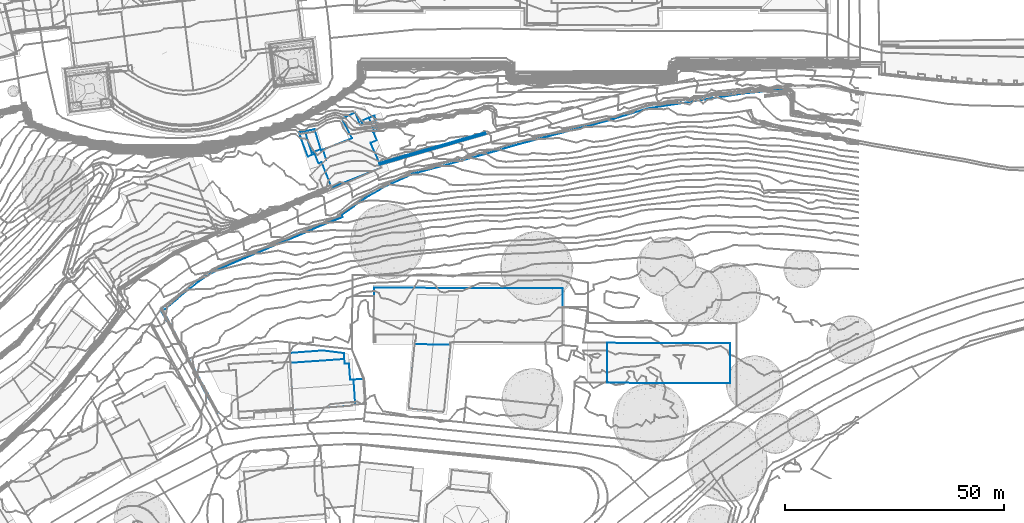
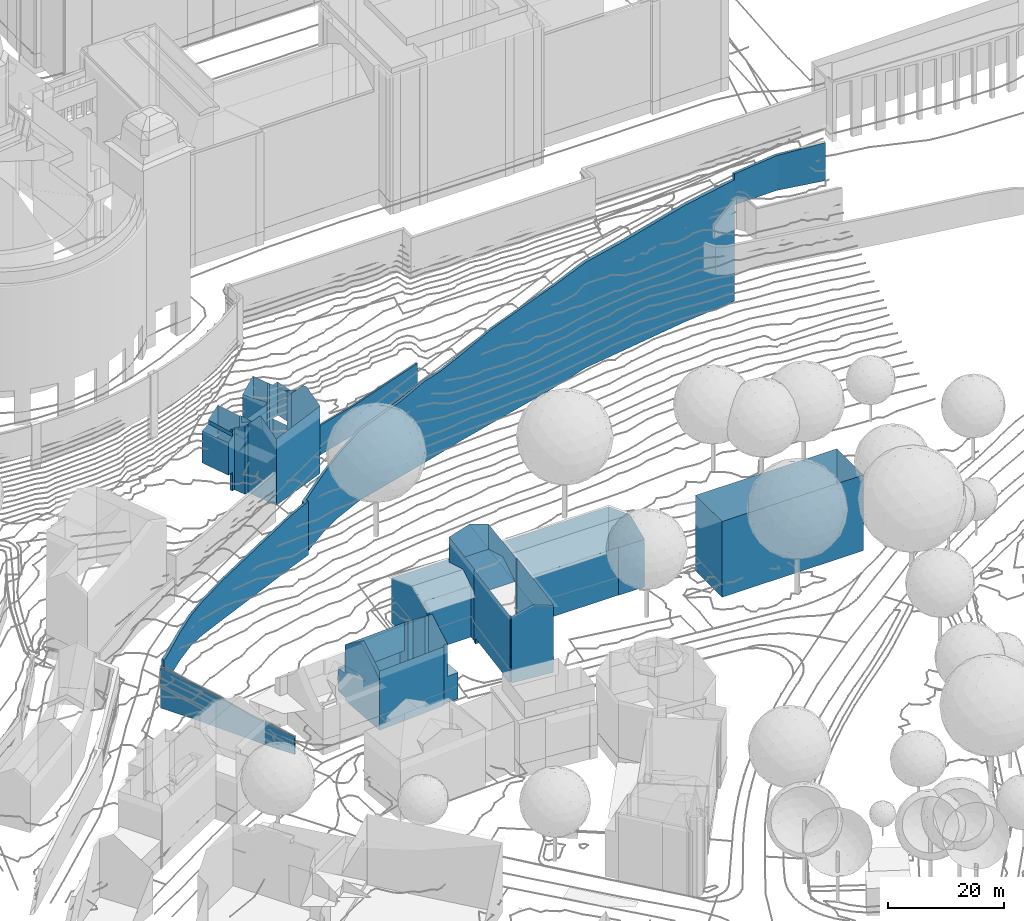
# Not in any storey, part 54 of 477: 6 walls.
"""IFC4 building model written with IfcOpenShell, lengths in metres."""

from ifc_helpers import new_model, si_unit, frame, origin_with_axes, place, context, subcontext, project, spatial, polygons, element, save


model = new_model("IFC4")

# Units and contexts
model_context = context("Model", 3, precision=1e-05, world=origin_with_axes())
body_context = subcontext(model_context, "Body", "Model", "MODEL_VIEW")
ifc_project = project(units=[si_unit("AREAUNIT", "SQUARE_METRE"), si_unit("LENGTHUNIT", "METRE")], contexts=[model_context])

# Sites, building
site_1_placement = place(None, origin_with_axes())
site_1 = spatial("IfcSite", under=ifc_project, at=site_1_placement, Name="Topoexport Site")
site_2_placement = place(site_1_placement, origin_with_axes())
site_2 = spatial("IfcSite", under=site_1, at=site_2_placement, Name="TPX_BUILDINGS")
building_1_placement = place(site_2_placement, frame((211.8297320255, 101.9383160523, 526.7541), z_axis=(0.0, 0.0, 1.0), x_axis=(1.0, 0.0, 0.0)))
building_1 = spatial("IfcBuilding", under=site_2, at=building_1_placement, Name="Building 18", CompositionType="ELEMENT")

# Walls
wall_1_placement = place(None, frame((211.8297320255, 101.9383160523, 526.7541), z_axis=(0.0, 0.0, 1.0), x_axis=(1.0, 0.0, 0.0)))
element("IfcWall", 1, at=wall_1_placement, inside=building_1, Name="Wall 18", context=body_context, shape_type="Tessellation", body=[
    polygons([(391.2110000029, 242.7285000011, -10.155), (376.1530000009, 238.4004000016, -4.0406), (391.2110000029, 242.7285000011, -3.1507), (391.1020000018, 243.1074000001, -10.155), (391.1020000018, 243.1074000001, -3.1507), (376.0439999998, 238.7793000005, -10.155), (376.0439999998, 238.7793000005, -4.0406), (376.1530000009, 238.4004000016, -10.155), (367.0130000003, 235.7421999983, -4.0406), (366.9020000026, 236.121100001, -10.155), (366.9020000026, 236.121100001, -4.0406), (367.0130000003, 235.7421999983, -10.155)], [[[3, 2, 1]], [[5, 3, 4]], [[7, 4, 6]], [[2, 9, 8]], [[11, 7, 10]], [[9, 11, 12]], [[2, 8, 1]], [[3, 1, 4]], [[5, 4, 7]], [[9, 12, 8]], [[7, 6, 10]], [[11, 10, 12]]]),
])
wall_2_placement = place(None, frame((211.8297320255, 101.9383160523, 526.7541), z_axis=(0.0, 0.0, 1.0), x_axis=(1.0, 0.0, 0.0)))
element("IfcWall", 2, at=wall_2_placement, inside=building_1, Name="Wall 22", context=body_context, shape_type="Tessellation", body=[
    polygons([(330.8370000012, 212.0936999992, -20.483), (329.5329999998, 211.4404000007, -13.6877), (330.8370000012, 212.0936999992, -13.3767), (348.3960000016, 219.5342000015, -20.483), (336.2930000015, 214.442400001, -12.1528), (348.3960000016, 219.5342000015, -10.34), (336.2930000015, 214.442400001, -20.483), (354.0190000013, 221.9697000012, -20.483), (354.0190000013, 221.9697000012, -9.5821), (353.4940000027, 222.2256000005, -20.483), (357.693, 223.8564000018, -20.483), (353.4940000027, 222.2256000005, -9.6301), (358.6170000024, 223.8066000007, -20.483), (358.6170000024, 223.8066000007, -9.1681), (357.5240000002, 224.2617000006, -20.483), (364.1030000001, 228.8671999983, -20.483), (357.5240000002, 224.2617000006, -9.1681), (364.5199999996, 228.5967000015, -20.483), (358.4250000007, 224.3143999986, -9.1681), (364.5199999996, 228.5967000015, -8.2052), (357.693, 223.8564000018, -9.1681), (358.4250000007, 224.3143999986, -20.483), (368.4070000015, 230.8134999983, -20.483), (368.4070000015, 230.8134999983, -7.3163), (368.0720000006, 231.1268999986, -20.483), (364.1030000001, 228.8671999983, -8.2442), (374.5850000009, 233.6182000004, -20.483), (374.5850000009, 233.6182000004, -5.7495), (374.4420000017, 234.0780999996, -20.483), (368.0720000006, 231.1268999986, -7.3483), (384.068, 236.1963, -20.4831), (384.068, 236.1963, -4.6586), (405.756000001, 242.2626999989, -20.4829), (398.893000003, 240.4354999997, -2.3187), (405.756000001, 242.2626999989, -0.6428), (393.450000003, 239.3104999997, -20.4831), (398.756000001, 240.9004000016, -20.4829), (393.450000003, 239.3104999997, -3.2437), (398.893000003, 240.4354999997, -20.4829), (393.5760000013, 238.8729999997, -3.2437), (436.8360000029, 249.9111000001, -20.483), (428.0439999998, 248.5469000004, 1.7179), (436.8360000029, 249.9111000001, 2.4808), (419.3350000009, 245.8231999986, -20.4829), (419.3350000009, 245.8231999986, 0.96), (329.2880000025, 211.7743999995, -20.483), (327.0160000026, 210.5722999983, -14.1346), (327.0160000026, 210.5722999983, -20.483), (329.2880000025, 211.7743999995, -13.6997), (330.8900000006, 212.6229999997, -20.483), (330.8900000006, 212.6229999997, -13.3187), (336.1300000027, 214.8555000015, -20.483), (336.1300000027, 214.8555000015, -12.1508), (348.2180000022, 219.9853000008, -10.339), (348.2180000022, 219.9853000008, -20.483), (405.6400000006, 242.7030999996, -20.4829), (398.756000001, 240.9004000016, -2.3197), (405.6400000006, 242.7030999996, -0.6428), (419.2030000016, 246.2578000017, -20.4829), (419.2030000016, 246.2578000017, 0.96), (383.9270000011, 236.6893999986, -20.4831), (383.9270000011, 236.6893999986, -4.6596), (374.4420000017, 234.0780999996, -5.7465), (389.574000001, 238.2432000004, -20.4831), (389.574000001, 238.2430999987, -3.4067), (393.5760000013, 238.8729999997, -20.4831), (389.7030000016, 237.7754000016, -3.4067), (389.7030000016, 237.7754000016, -20.4831), (428.0439999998, 248.5469000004, -20.483), (420.2829999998, 246.1229999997, 0.96), (420.2829999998, 246.1229999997, -20.4829), (420.126000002, 246.566399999, -20.4829), (420.126000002, 246.566399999, 0.96), (427.9169999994, 249.1737999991, -20.483), (427.9169999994, 249.1737999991, 1.7199), (468.6530000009, 253.8467000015, -0.3199), (477.4600000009, 251.6347999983, -0.3199), (468.6530000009, 253.8467000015, 7.0034), (468.6080000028, 253.2734000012, 7.0034), (477.4600000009, 251.6347999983, 7.7103), (468.6080000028, 253.2734000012, -0.3199), (460.2239999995, 253.1543000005, 4.9256), (460.2239999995, 253.1543000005, 6.2075), (460.1730000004, 253.6708999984, 6.2035), (460.1730000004, 253.6708999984, 4.9256), (460.1730000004, 253.6708999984, -0.3199), (457.8430000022, 252.7675999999, 4.8446), (460.2239999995, 253.1543000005, -0.3199), (460.2239999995, 253.1543000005, -20.483), (457.8430000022, 252.7675999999, -20.483), (460.1730000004, 253.6680000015, -20.483), (449.8500000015, 251.9706999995, -20.483), (449.8500000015, 251.9706999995, 4.0297), (457.7770000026, 253.4296999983, -20.483), (449.7650000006, 252.6308999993, 4.0297), (449.7650000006, 252.6308000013, -20.483), (457.7770000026, 253.4296999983, 4.8446), (436.7320000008, 250.5683999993, -20.483), (436.7320000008, 250.5683999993, 2.4808), (323.0760000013, 192.1523000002, -23.7897), (323.0760000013, 192.1523000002, -20.4821), (322.7210000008, 192.8222999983, -18.6592), (323.4299999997, 191.4824000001, -18.9962), (323.5109999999, 191.3330000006, -20.688), (325.9310000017, 186.9092000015, -25.2756), (322.7210000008, 192.8222999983, -25.2756), (323.4299999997, 191.4824000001, -25.2756), (323.5109999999, 191.3330000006, -23.9967), (325.938000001, 186.8964999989, -20.1591), (320.0100000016, 197.3916000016, -25.2756), (316.9629999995, 202.6484000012, -25.2756), (320.0100000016, 197.3916000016, -17.8803), (327.3210000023, 210.2148000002, -20.483), (325.7039999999, 209.0243999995, -14.4046), (327.3210000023, 210.2148000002, -14.1246), (329.5329999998, 211.4404000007, -20.483), (325.7039999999, 209.0243999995, -20.483), (323.7280000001, 207.5370999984, -14.5966), (318.8420000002, 204.1103000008, -20.483), (323.4570000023, 207.9023000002, -20.483), (318.8420000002, 204.1103000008, -15.2205), (323.7280000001, 207.5370999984, -20.483), (319.1640000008, 203.6992000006, -15.2205), (317.5140000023, 202.3574000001, -16.7574), (317.2360000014, 202.8603000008, -16.6404), (317.5140000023, 202.3574000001, -15.2355), (317.6300000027, 202.4512000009, -20.483), (317.6300000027, 202.4512000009, -16.7524), (319.1640000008, 203.6992000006, -20.483), (327.4610000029, 183.2256000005, -25.2756), (325.6339999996, 186.7373000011, -25.2756), (327.4610000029, 183.2256000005, -20.757), (329.9570000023, 179.0137000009, -25.2756), (329.9570000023, 179.0137000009, -21.669), (330.2019999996, 179.1581999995, -25.2756), (330.2019999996, 179.1581999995, -21.669), (330.1400000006, 179.2109000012, -25.2756), (330.1400000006, 179.2109000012, -21.656), (322.4910000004, 192.7012000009, -18.6592), (322.4910000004, 192.7012000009, -25.2756), (325.6339999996, 186.7373000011, -20.1591), (320.2380000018, 197.5185000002, -17.8803), (317.3619999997, 202.9580000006, -20.483), (317.3619999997, 202.9580000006, -25.2756), (320.2380000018, 197.5185000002, -25.2756), (316.9629999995, 202.6484000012, -16.6504), (317.2360000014, 202.8603000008, -15.2345), (325.4169999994, 209.3729999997, -20.483), (323.4570000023, 207.9023000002, -14.5956), (325.4169999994, 209.3729999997, -14.4056), (327.8320000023, 183.4316000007, -25.2756), (327.8320000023, 183.4316000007, -20.757)], [[[3, 2, 1]], [[6, 5, 4]], [[5, 3, 7]], [[9, 6, 8]], [[12, 11, 10]], [[14, 9, 13]], [[17, 16, 15]], [[20, 19, 18]], [[21, 17, 11]], [[19, 14, 22]], [[24, 20, 23]], [[26, 25, 16]], [[28, 24, 27]], [[30, 29, 25]], [[32, 28, 31]], [[35, 34, 33]], [[38, 37, 36]], [[34, 40, 39]], [[43, 42, 41]], [[45, 35, 44]], [[48, 47, 46]], [[46, 47, 49]], [[49, 51, 50]], [[49, 50, 46]], [[51, 53, 52]], [[52, 50, 51]], [[53, 54, 52]], [[54, 12, 55]], [[10, 55, 12]], [[54, 55, 52]], [[37, 57, 56]], [[56, 57, 58]], [[58, 60, 59]], [[58, 59, 56]], [[63, 62, 61]], [[61, 29, 63]], [[62, 64, 61]], [[65, 38, 36]], [[36, 64, 65]], [[65, 64, 62]], [[40, 67, 66]], [[66, 67, 68]], [[68, 32, 31]], [[32, 68, 67]], [[42, 70, 69]], [[69, 70, 71]], [[45, 44, 71]], [[45, 71, 70]], [[59, 60, 72]], [[72, 60, 73]], [[73, 75, 74]], [[73, 74, 72]], [[78, 77, 76]], [[80, 79, 77]], [[79, 82, 81]], [[83, 82, 79]], [[85, 84, 78]], [[85, 76, 86]], [[88, 82, 87]], [[88, 90, 89]], [[83, 84, 82]], [[86, 88, 91]], [[93, 43, 92]], [[87, 93, 90]], [[96, 95, 94]], [[94, 95, 97]], [[97, 85, 86]], [[91, 94, 86]], [[86, 94, 97]], [[74, 75, 98]], [[98, 75, 99]], [[99, 95, 96]], [[99, 96, 98]], [[102, 101, 100]], [[101, 102, 103]], [[103, 104, 101]], [[104, 103, 105]], [[101, 104, 100]], [[100, 106, 102]], [[100, 107, 106]], [[108, 107, 100]], [[105, 103, 109]], [[105, 107, 108]], [[112, 111, 110]], [[115, 114, 113]], [[2, 115, 116]], [[114, 118, 117]], [[121, 120, 119]], [[118, 123, 122]], [[126, 125, 124]], [[129, 128, 127]], [[128, 129, 123]], [[128, 126, 124]], [[126, 128, 123]], [[132, 131, 130]], [[134, 130, 133]], [[136, 134, 135]], [[138, 136, 137]], [[140, 131, 139]], [[139, 131, 141]], [[112, 110, 140]], [[112, 140, 139]], [[127, 128, 142]], [[144, 143, 127]], [[127, 145, 144]], [[142, 102, 145]], [[106, 145, 102]], [[142, 145, 127]], [[143, 111, 146]], [[143, 144, 111]], [[143, 146, 125]], [[119, 125, 147]], [[119, 143, 125]], [[119, 147, 121]], [[120, 149, 148]], [[148, 149, 150]], [[150, 47, 48]], [[150, 48, 148]], [[105, 109, 151]], [[151, 109, 152]], [[152, 137, 151]], [[137, 152, 138]], [[2, 116, 1]], [[5, 7, 4]], [[3, 1, 7]], [[6, 4, 8]], [[21, 11, 12]], [[9, 8, 13]], [[26, 16, 17]], [[19, 22, 18]], [[17, 15, 11]], [[14, 13, 22]], [[20, 18, 23]], [[30, 25, 26]], [[24, 23, 27]], [[63, 29, 30]], [[28, 27, 31]], [[34, 39, 33]], [[57, 37, 38]], [[40, 66, 39]], [[42, 69, 41]], [[35, 33, 44]], [[80, 77, 78]], [[79, 81, 77]], [[82, 88, 81]], [[78, 76, 85]], [[87, 90, 88]], [[84, 85, 82]], [[88, 89, 91]], [[43, 41, 92]], [[93, 92, 90]], [[104, 105, 108]], [[104, 108, 100]], [[146, 111, 112]], [[114, 117, 113]], [[115, 113, 116]], [[118, 122, 117]], [[149, 120, 121]], [[123, 129, 122]], [[147, 125, 126]], [[141, 131, 132]], [[132, 130, 134]], [[134, 133, 135]], [[136, 135, 137]]]),
])

# Building
building_2_placement = place(site_2_placement, frame((577.4937320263, 297.2000160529, 499.3887), z_axis=(0.0, 0.0, 1.0), x_axis=(1.0, 0.0, 0.0)))
building_2 = spatial("IfcBuilding", under=site_2, at=building_2_placement, Name="Building 173", CompositionType="ELEMENT")

# Wall
wall_3_placement = place(None, frame((577.4937320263, 297.2000160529, 499.3887), z_axis=(0.0, 0.0, 1.0), x_axis=(1.0, 0.0, 0.0)))
element("IfcWall", 3, at=wall_3_placement, inside=building_2, Name="Wall 0", context=body_context, shape_type="Tessellation", body=[
    polygons([(7.9299999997, -14.8145000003, 15.1155), (8.0890000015, -14.8300999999, 15.1675), (8.0890000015, -14.8300999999, 1.1478), (7.9299999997, -14.8145000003, 1.1478), (8.0520000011, -15.2080000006, 11.6628), (8.0520000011, -15.2080000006, 15.1675), (8.0520000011, -15.2080000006, 1.1478), (16.0839999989, -15.6504000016, 9.889), (15.9250000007, -15.634800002, 15.2175), (16.0839999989, -15.6504000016, 15.1645), (16.0839999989, -15.6504000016, 1.1478), (15.9250000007, -15.634800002, 1.1478), (15.8889999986, -15.9922000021, 15.2175), (15.8889999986, -15.9922000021, 4.6655), (15.8889999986, -15.9922000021, 1.1478), (0.3999999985, -0.001000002, 0.0), (0.0, 0.0, 10.036), (0.3999999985, -0.001000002, 10.036), (0.0, 0.0, 5.0175), (0.4039999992, 1.6981999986, 10.7469), (0.4039999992, 1.6981999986, 0.0), (17.4759999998, -0.129900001, 10.004), (18.0230000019, -0.129900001, 10.004), (17.4759999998, -0.129900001, 0.0), (18.0230000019, -0.129900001, 0.0), (18.0230000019, -0.0604999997, 0.0), (18.0230000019, -0.0604999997, 10.034), (38.0150000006, -0.1143000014, 10.0371), (38.0150000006, -0.1143000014, 0.0), (38.0170000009, -0.1845999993, 10.0081), (43.1579999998, -0.2314000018, 0.0), (43.1579999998, -0.2314000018, 9.9951), (0.0590000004, 12.3847999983, 0.0), (43.1799999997, 12.2714999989, 9.3102), (0.0590000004, 12.3847999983, 6.9883), (43.1799999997, 12.2714999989, 0.0001), (17.5930000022, -0.5645000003, 0.0), (9.3420000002, -0.5390999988, 1.1478), (17.5930000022, -0.5645000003, 1.1478), (9.4110000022, 0.1532999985, 15.1215), (9.4110000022, 0.1532999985, 0.0), (9.5709999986, 0.1376999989, 0.0), (9.5709999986, 0.1376999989, 15.1735), (9.3420000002, -0.5390999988, 0.0), (12.0460000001, -15.6084000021, 16.4804), (12.0460000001, -15.6084000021, 1.1478), (14.6279999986, 10.7949000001, 9.905), (10.626000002, 10.8213, 15.1775), (10.626000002, 10.8213, 9.9), (14.6279999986, 10.7949000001, 16.4804), (18.4220000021, 10.7685999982, 9.911), (18.4220000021, 10.7685999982, 15.2445), (17.9160000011, 4.9395000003, 12.1268), (17.4680000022, -0.2177999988, 15.2055), (17.4450000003, -0.4873000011, 15.2045), (17.4450000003, -0.4873000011, 0.0), (0.0240000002, 4.995099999, 0.0), (0.0240000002, 4.995099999, 12.1268), (0.0, 0.0, 0.0), (0.0590000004, 12.3847999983, 9.3181), (9.7230000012, 1.677699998, 0.0), (9.7230000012, 1.677699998, 10.7509), (10.0470000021, 4.9638999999, 12.1268), (9.7190000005, 1.6415999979, 15.1745), (17.5989999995, -0.5020000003, 0.0), (17.5989999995, -0.5019000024, 15.1535), (43.1669999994, 4.8612999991, 12.1269), (38.0170000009, -0.1845999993, 0.0)], [[[3, 2, 1]], [[3, 1, 4]], [[6, 2, 5]], [[2, 3, 7]], [[10, 9, 8]], [[8, 9, 11]], [[9, 12, 11]], [[14, 9, 13]], [[9, 14, 12]], [[14, 15, 12]], [[18, 17, 16]], [[19, 16, 17]], [[21, 20, 16]], [[20, 18, 16]], [[24, 23, 22]], [[23, 24, 25]], [[27, 23, 26]], [[28, 27, 26]], [[26, 29, 28]], [[28, 29, 30]], [[32, 30, 31]], [[35, 34, 33]], [[36, 33, 34]], [[39, 38, 37]], [[42, 41, 40]], [[40, 43, 42]], [[40, 38, 4]], [[44, 38, 41]], [[41, 38, 40]], [[4, 1, 40]], [[14, 13, 45]], [[45, 6, 14]], [[5, 7, 46]], [[46, 14, 5]], [[15, 14, 46]], [[5, 14, 6]], [[49, 48, 47]], [[47, 48, 50]], [[52, 51, 47]], [[52, 47, 50]], [[52, 53, 51]], [[22, 53, 54]], [[24, 22, 55]], [[53, 52, 54]], [[55, 56, 24]], [[55, 22, 54]], [[35, 57, 19]], [[17, 58, 19]], [[57, 59, 19]], [[58, 60, 35]], [[35, 33, 57]], [[58, 35, 19]], [[62, 61, 42]], [[62, 42, 43]], [[64, 48, 63]], [[43, 64, 62]], [[63, 62, 64]], [[49, 63, 48]], [[66, 39, 65]], [[39, 66, 8]], [[37, 65, 39]], [[10, 8, 66]], [[8, 11, 39]], [[55, 66, 56]], [[65, 56, 66]], [[36, 32, 31]], [[36, 34, 32]], [[32, 34, 67]], [[7, 5, 2]], [[19, 59, 16]], [[62, 20, 21]], [[62, 21, 61]], [[23, 25, 26]], [[68, 30, 29]], [[30, 68, 31]], [[60, 34, 35]], [[38, 44, 37]]]),
])

# Building
building_3_placement = place(site_2_placement, frame((630.7837320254, 287.8680160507, 499.1767), z_axis=(0.0, 0.0, 1.0), x_axis=(1.0, 0.0, 0.0)))
building_3 = spatial("IfcBuilding", under=site_2, at=building_3_placement, Name="Building 174", CompositionType="ELEMENT")

# Wall
wall_4_placement = place(None, frame((630.7837320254, 287.8680160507, 499.1767), z_axis=(0.0, 0.0, 1.0), x_axis=(1.0, 0.0, 0.0)))
element("IfcWall", 4, at=wall_4_placement, inside=building_3, Name="Wall 0", context=body_context, shape_type="Tessellation", body=[
    polygons([(0.0, 0.0, 0.0), (0.0, 9.1308000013, 15.9245), (0.0, 0.0, 15.9245), (28.0730000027, -0.0409999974, 0.0), (28.0730000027, -0.0409999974, 15.9245), (28.0600000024, 9.0703000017, 0.0), (28.0600000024, 9.0703000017, 15.9245), (0.0, 9.1308000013, 0.0001)], [[[3, 2, 1]], [[5, 3, 4]], [[7, 5, 6]], [[2, 7, 8]], [[2, 8, 1]], [[3, 1, 4]], [[5, 4, 6]], [[7, 6, 8]]]),
])

# Building
building_4_placement = place(site_2_placement, frame((560.434732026, 345.1033160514, 517.399), z_axis=(0.0, 0.0, 1.0), x_axis=(1.0, 0.0, 0.0)))
building_4 = spatial("IfcBuilding", under=site_2, at=building_4_placement, Name="Building 181", CompositionType="ELEMENT")

# Wall
wall_5_placement = place(None, frame((560.434732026, 345.1033160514, 517.399), z_axis=(0.0, 0.0, 1.0), x_axis=(1.0, 0.0, 0.0)))
element("IfcWall", 5, at=wall_5_placement, inside=building_4, Name="Wall 0", context=body_context, shape_type="Tessellation", body=[
    polygons([(3.0350000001, -5.1512999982, -0.4739), (1.3770000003, 0.2520000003, 0.0), (3.0350000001, -5.1512999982, 0.0), (6.2300000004, -6.3290999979, 10.302), (5.512000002, -3.9882999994, 10.322), (5.512000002, -3.9882999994, 8.9002), (6.2349999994, -6.3456999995, 10.322), (0.3560000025, -1.115199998, 0.0), (0.0, 0.0, 6.6534), (0.3560000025, -1.115199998, 6.6614), (0.0, 0.0, 0.0), (2.0260000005, -5.5585999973, 3.8506), (1.6090000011, -4.4472000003, 6.7994), (2.0260000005, -5.5585999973, 6.8464), (2.0260000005, -5.5585999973, 0.0), (2.2320000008, -2.5331999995, 7.5233), (3.0350000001, -5.1512999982, 8.3382), (3.0350000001, -5.1512999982, 7.5223), (1.3770000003, 0.2520000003, 7.5223), (1.3770000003, 0.2520000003, 8.3382), (4.4680000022, -7.1094000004, 8.0182), (4.4539999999, -7.0634999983, 8.0182), (4.4539999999, -7.0634999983, 0.0), (4.4680000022, -7.1094000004, 0.0), (14.0080000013, 1.6757999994, -3.9556), (14.4780000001, 1.8535000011, -3.9556), (14.4780000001, 1.8535000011, 10.41), (14.0080000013, 1.6757999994, 10.846), (12.8480000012, 4.4658000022, 10.92), (14.2089999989, 2.5800999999, 10.402), (14.2089999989, 2.5800999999, 6.8104), (14.2089999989, 2.5800999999, 3.2197), (16.9589999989, 0.0694000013, -3.9556), (17.7699999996, -1.8231999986, -3.9556), (16.9589999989, 0.0694000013, 9.0771), (17.7699999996, -1.8231999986, 10.258), (16.3300000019, -2.432599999, 10.288), (16.3300000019, -2.432599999, -3.9556), (16.3370000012, -2.4492000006, -0.39), (16.3390000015, -2.4540999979, 10.302), (9.8310000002, 3.1387000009, -3.9556), (9.8310000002, 3.1387000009, 8.9252), (12.0950000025, -1.3827999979, 9.2961), (10.2990000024, -11.4872999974, 10.068), (13.1390000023, -10.3475999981, 10.116), (18.8200000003, -8.066399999, -3.9556), (15.9800000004, -9.2069999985, 10.164), (18.8200000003, -8.066399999, 10.211), (7.4589999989, -12.6279000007, -0.6049), (7.4589999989, -12.6279000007, -3.9556), (7.4589999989, -12.6279000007, 10.02), (18.6000000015, -7.4969999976, -3.9556), (18.6000000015, -7.4969999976, 7.1233), (17.2540000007, 3.8311000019, 6.8774), (17.9039999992, 0.3125, 8.6792), (17.2540000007, 3.8311000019, 8.6412), (17.2540000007, 3.8311000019, 1.6249), (17.2540000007, 3.8311000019, 5.1135), (17.5789999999, 2.072300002, 1.6249), (17.9039999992, 0.3125, 1.6249), (17.2180000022, 0.1367000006, 8.7212), (17.2180000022, 0.1367000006, 9.0941), (16.9849999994, 0.7432000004, 8.7212), (2.8990000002, -4.6552999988, 8.3542), (3.2430000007, -4.5233999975, 8.7212), (2.8990000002, -4.6552999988, 8.7212), (2.8990000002, -4.6552999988, -3.9556), (4.9780000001, -3.8583999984, -3.9556), (2.8990000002, -4.6552999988, -0.4739), (3.0820000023, -5.1327999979, -3.9556), (3.0820000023, -5.1327999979, -0.4739), (3.0820000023, -5.1327999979, 8.3892), (3.0820000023, -5.1327999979, 9.0142), (3.5390000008, 0.6484999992, -0.4739), (1.3770000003, 0.2520000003, -0.4739), (3.5390000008, 0.6484999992, 10.518), (12.5839999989, 4.3496000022, 11.1699), (12.8480000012, 4.4658000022, -3.9556), (15.9990000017, 3.3155000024, 8.7212), (15.9990000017, 3.3155000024, 1.6249), (14.2089999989, 2.5800999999, -3.9556), (15.9990000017, 3.3155000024, -3.9556), (17.2180000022, 0.1367000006, 1.6249), (17.2180000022, 0.1367000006, -3.9556), (5.0749999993, -4.1611000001, 10.576), (5.0749999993, -4.1611000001, -3.9556), (12.0950000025, -1.3827999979, -3.9556), (11.5520000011, -1.5975999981, 8.8592), (5.1359999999, -4.1376999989, 10.642), (4.9780000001, -3.8583999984, -0.4739), (4.4719999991, -7.1083999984, -3.9556), (5.1830000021, -6.8231999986, 10.399), (5.1830000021, -6.8231999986, -3.9556), (4.4719999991, -7.1083999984, 10.412), (6.2360000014, -9.5097000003, 13.3367), (6.1539999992, -9.2997999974, 13.3487), (6.1539999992, -9.2997999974, -3.9556), (6.2360000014, -9.5097000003, -3.9556), (18.6000000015, -7.4969999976, 10.817), (17.6810000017, -5.4452999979, 13.0397), (17.3570000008, -4.7225999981, 13.0557), (17.3570000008, -4.7225999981, -3.9556), (16.9849999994, 0.7432000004, -3.9556), (16.9849999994, 0.7432000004, 1.6249), (3.5920000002, -4.9266999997, 9.0092), (3.5920000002, -4.9266999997, 7.8963), (3.5920000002, -4.9266999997, 0.0), (3.5920000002, -4.9266999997, -3.9556), (4.4350000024, -7.0165999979, 10.302)], [[[3, 2, 1]], [[6, 5, 4]], [[7, 4, 5]], [[10, 9, 8]], [[8, 9, 11]], [[14, 13, 12]], [[8, 15, 12]], [[18, 17, 16]], [[16, 20, 19]], [[20, 16, 17]], [[23, 22, 21]], [[21, 24, 23]], [[27, 26, 25]], [[29, 28, 25]], [[27, 30, 26]], [[31, 26, 30]], [[32, 26, 31]], [[35, 34, 33]], [[36, 34, 35]], [[39, 38, 37]], [[39, 37, 40]], [[37, 38, 34]], [[43, 42, 41]], [[46, 45, 44]], [[46, 48, 47]], [[49, 46, 44]], [[50, 46, 49]], [[49, 44, 51]], [[53, 46, 52]], [[56, 55, 54]], [[58, 55, 57]], [[55, 59, 57]], [[59, 55, 60]], [[63, 62, 61]], [[66, 65, 64]], [[69, 68, 67]], [[71, 69, 70]], [[73, 66, 72]], [[75, 2, 74]], [[9, 74, 2]], [[2, 11, 9]], [[19, 20, 76]], [[19, 76, 74]], [[74, 9, 19]], [[42, 77, 29]], [[41, 42, 29]], [[41, 29, 78]], [[79, 56, 54]], [[30, 79, 31]], [[32, 31, 58]], [[54, 31, 79]], [[58, 31, 54]], [[58, 57, 80]], [[80, 81, 32]], [[81, 80, 82]], [[80, 32, 58]], [[61, 60, 55]], [[35, 61, 62]], [[61, 35, 83]], [[83, 35, 84]], [[33, 84, 35]], [[61, 83, 60]], [[86, 85, 6]], [[87, 86, 6]], [[6, 85, 5]], [[6, 88, 87]], [[87, 88, 43]], [[5, 85, 89]], [[68, 90, 86]], [[74, 85, 90]], [[85, 74, 76]], [[90, 85, 86]], [[93, 92, 91]], [[94, 91, 92]], [[96, 92, 95]], [[92, 51, 95]], [[49, 51, 93]], [[93, 51, 92]], [[49, 93, 97]], [[49, 98, 50]], [[98, 49, 97]], [[101, 100, 99]], [[101, 99, 53]], [[40, 53, 39]], [[40, 101, 53]], [[38, 39, 102]], [[52, 102, 39]], [[52, 39, 53]], [[82, 80, 103]], [[83, 84, 104]], [[106, 105, 73]], [[73, 72, 106]], [[106, 72, 17]], [[106, 18, 107]], [[18, 106, 17]], [[107, 18, 14]], [[12, 107, 14]], [[12, 15, 3]], [[107, 3, 71]], [[3, 107, 12]], [[71, 3, 1]], [[107, 71, 108]], [[70, 108, 71]], [[109, 105, 22]], [[94, 109, 22]], [[106, 22, 105]], [[94, 22, 23]], [[91, 23, 107]], [[91, 107, 108]], [[23, 91, 94]], [[2, 75, 1]], [[13, 8, 12]], [[10, 8, 13]], [[27, 25, 28]], [[78, 29, 25]], [[32, 81, 26]], [[37, 34, 36]], [[43, 41, 87]], [[47, 45, 46]], [[99, 48, 46]], [[99, 46, 53]], [[58, 54, 55]], [[21, 106, 24]], [[24, 106, 107]], [[90, 68, 69]], [[69, 67, 70]], [[66, 64, 72]], [[80, 104, 103]], [[84, 103, 104]]]),
])

# Building
building_5_placement = place(site_2_placement, frame((558.3647320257, 294.6795160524, 500.6956), z_axis=(0.0, 0.0, 1.0), x_axis=(1.0, 0.0, 0.0)))
building_5 = spatial("IfcBuilding", under=site_2, at=building_5_placement, Name="Building 182", CompositionType="ELEMENT")

# Wall
wall_6_placement = place(None, frame((558.3647320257, 294.6795160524, 500.6956), z_axis=(0.0, 0.0, 1.0), x_axis=(1.0, 0.0, 0.0)))
element("IfcWall", 6, at=wall_6_placement, inside=building_5, Name="Wall 0", context=body_context, shape_type="Tessellation", body=[
    polygons([(16.756000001, -5.8993999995, -0.511), (17.1530000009, -11.6328000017, 4.9954), (16.756000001, -5.8993999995, 4.9955), (0.1280000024, -2.2402000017, -0.656), (12.4130000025, -1.3887000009, -0.0001), (0.1280000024, -2.2402000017, 0.0), (13.4970000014, -2.4072000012, -0.656), (13.7530000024, -6.1074000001, 14.5635), (13.4970000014, -2.4072000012, 11.7418), (13.7530000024, -6.1074000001, -0.656), (12.4890000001, -2.4765999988, 2.4437), (12.4890000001, -2.4765999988, 7.0933), (12.4890000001, -2.4765999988, -0.656), (7.438000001, 0.5722999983, 0.0), (12.3200000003, -0.0430000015, 4.9955), (7.438000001, 0.5722999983, 4.9955), (0.0, 0.0, 0.0), (0.0, 0.0, 4.9955), (0.1280000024, -2.2402000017, 4.9955), (12.4130000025, -1.3887000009, 10.9349), (0.1280000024, -2.2402000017, 11.0869), (14.5219999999, -6.0546999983, 4.9955), (14.5219999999, -6.0546999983, 14.5635), (14.5219999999, -6.0546999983, -0.656), (14.5219999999, -6.0546999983, -0.511), (14.1449999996, -12.0439999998, 11.7198), (14.1449999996, -12.0439000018, -0.656), (12.2750000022, -12.1807000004, -0.656), (0.745000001, -13.0254000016, 11.8228), (12.2750000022, -12.1807000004, 11.7138), (0.745000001, -13.0254000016, -0.656), (14.9180000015, -11.7870999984, -0.656), (14.9180000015, -11.7870999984, -0.511), (14.9180000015, -11.7870999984, 4.9954), (14.9180000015, -11.7870999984, 11.8728), (14.5970000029, -7.1405999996, 15.3915), (14.1300000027, -11.8418000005, 4.8255), (17.1530000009, -11.6328000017, -0.511), (14.1300000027, -11.8418000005, -0.656), (14.1300000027, -11.8418000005, 11.8728), (12.4130000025, -1.3887000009, 4.9955), (12.4890000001, -2.4765999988, 11.7428), (12.4620000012, -2.0907999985, 11.4478), (12.4130000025, -1.3887000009, -0.656), (0.4480000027, -7.8300999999, 15.1715), (0.4810000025, -8.4072000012, 15.1735), (0.4640000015, -8.1191000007, 15.3915), (0.4810000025, -8.4072000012, -0.656), (0.4480000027, -7.8300999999, -0.656), (0.4640000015, -8.1191000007, -0.656), (12.3200000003, -0.0430000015, -0.0001)], [[[3, 2, 1]], [[6, 5, 4]], [[9, 8, 7]], [[10, 7, 8]], [[12, 9, 11]], [[13, 11, 9]], [[9, 7, 13]], [[16, 15, 14]], [[18, 16, 17]], [[21, 20, 19]], [[10, 8, 22]], [[23, 22, 8]], [[22, 3, 1]], [[25, 24, 10]], [[1, 25, 22]], [[22, 25, 10]], [[28, 27, 26]], [[30, 29, 28]], [[31, 28, 29]], [[28, 26, 30]], [[33, 32, 24]], [[33, 24, 25]], [[22, 35, 34]], [[23, 36, 35]], [[23, 35, 22]], [[34, 35, 37]], [[34, 38, 2]], [[38, 34, 33]], [[34, 37, 33]], [[33, 39, 32]], [[33, 37, 39]], [[37, 35, 40]], [[20, 12, 41]], [[41, 5, 15]], [[41, 11, 5]], [[43, 42, 12]], [[5, 11, 44]], [[41, 12, 11]], [[11, 13, 44]], [[20, 43, 12]], [[45, 21, 31]], [[47, 45, 46]], [[46, 45, 29]], [[29, 45, 31]], [[21, 48, 31]], [[21, 19, 48]], [[6, 19, 18]], [[6, 18, 17]], [[50, 19, 49]], [[6, 4, 49]], [[19, 6, 49]], [[19, 50, 48]], [[2, 38, 1]], [[5, 44, 4]], [[42, 9, 12]], [[40, 26, 37]], [[26, 39, 37]], [[26, 27, 39]], [[15, 51, 14]], [[16, 14, 17]], [[20, 41, 19]], [[5, 51, 15]]]),
])

save(model, "model.ifc")
